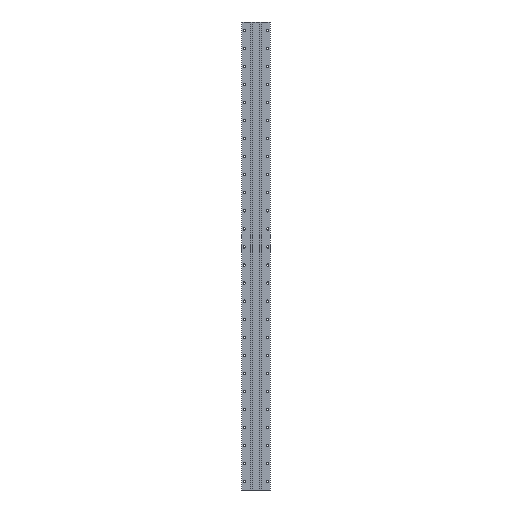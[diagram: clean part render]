
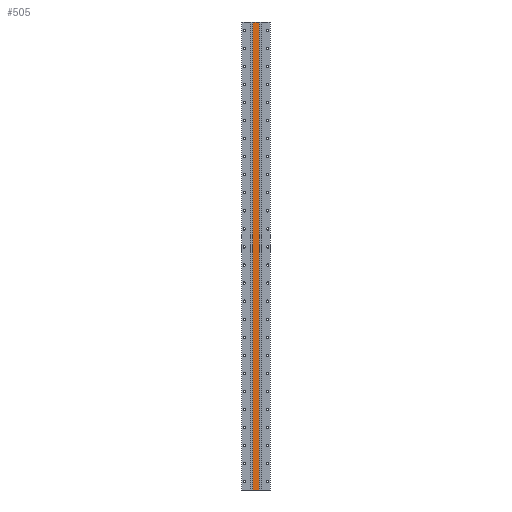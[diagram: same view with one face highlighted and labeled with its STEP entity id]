
A CAD part, front view. The second image highlights one B-rep face of the part: STEP entity #505.
In plain terms, the highlighted planar face has unit normal (0, -1, 0).
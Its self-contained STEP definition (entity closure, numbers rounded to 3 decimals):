
#500 = EDGE_CURVE ( 'NONE', #501, #527, #2390, .T. ) ;
#501 = VERTEX_POINT ( 'NONE', #2386 ) ;
#505 = ADVANCED_FACE ( 'NONE', ( #2381 ), #2380, .T. ) ;
#506 = EDGE_LOOP ( 'NONE', ( #507, #510, #567, #569 ) ) ;
#507 = ORIENTED_EDGE ( 'NONE', *, *, #508, .F. ) ;
#508 = EDGE_CURVE ( 'NONE', #509, #527, #2375, .T. ) ;
#509 = VERTEX_POINT ( 'NONE', #2371 ) ;
#510 = ORIENTED_EDGE ( 'NONE', *, *, #511, .F. ) ;
#511 = EDGE_CURVE ( 'NONE', #512, #509, #2370, .T. ) ;
#512 = VERTEX_POINT ( 'NONE', #2366 ) ;
#527 = VERTEX_POINT ( 'NONE', #2400 ) ;
#567 = ORIENTED_EDGE ( 'NONE', *, *, #568, .T. ) ;
#568 = EDGE_CURVE ( 'NONE', #512, #501, #2520, .T. ) ;
#569 = ORIENTED_EDGE ( 'NONE', *, *, #500, .T. ) ;
#2366 = CARTESIAN_POINT ( 'NONE',  ( -9.25, 0., -648. ) ) ;
#2367 = DIRECTION ( 'NONE',  ( 0., 0., 1. ) ) ;
#2368 = VECTOR ( 'NONE', #2367, 1000. ) ;
#2369 = CARTESIAN_POINT ( 'NONE',  ( -9.25, 0., -648. ) ) ;
#2370 = LINE ( 'NONE', #2369, #2368 ) ;
#2371 = CARTESIAN_POINT ( 'NONE',  ( -9.25, 0., 648. ) ) ;
#2372 = DIRECTION ( 'NONE',  ( 1., 0., 0. ) ) ;
#2373 = VECTOR ( 'NONE', #2372, 1000. ) ;
#2374 = CARTESIAN_POINT ( 'NONE',  ( -9.25, 0., 648. ) ) ;
#2375 = LINE ( 'NONE', #2374, #2373 ) ;
#2376 = DIRECTION ( 'NONE',  ( 0., 0., -1. ) ) ;
#2377 = DIRECTION ( 'NONE',  ( 0., -1., 0. ) ) ;
#2378 = CARTESIAN_POINT ( 'NONE',  ( -9.25, 0., -648. ) ) ;
#2379 = AXIS2_PLACEMENT_3D ( 'NONE', #2378, #2377, #2376 ) ;
#2380 = PLANE ( 'NONE',  #2379 ) ;
#2381 = FACE_OUTER_BOUND ( 'NONE', #506, .T. ) ;
#2386 = CARTESIAN_POINT ( 'NONE',  ( 9.25, 0., -648. ) ) ;
#2387 = DIRECTION ( 'NONE',  ( 0., 0., 1. ) ) ;
#2388 = VECTOR ( 'NONE', #2387, 1000. ) ;
#2389 = CARTESIAN_POINT ( 'NONE',  ( 9.25, 0., -648. ) ) ;
#2390 = LINE ( 'NONE', #2389, #2388 ) ;
#2400 = CARTESIAN_POINT ( 'NONE',  ( 9.25, 0., 648. ) ) ;
#2517 = DIRECTION ( 'NONE',  ( 1., 0., 0. ) ) ;
#2518 = VECTOR ( 'NONE', #2517, 1000. ) ;
#2519 = CARTESIAN_POINT ( 'NONE',  ( -9.25, 0., -648. ) ) ;
#2520 = LINE ( 'NONE', #2519, #2518 ) ;
